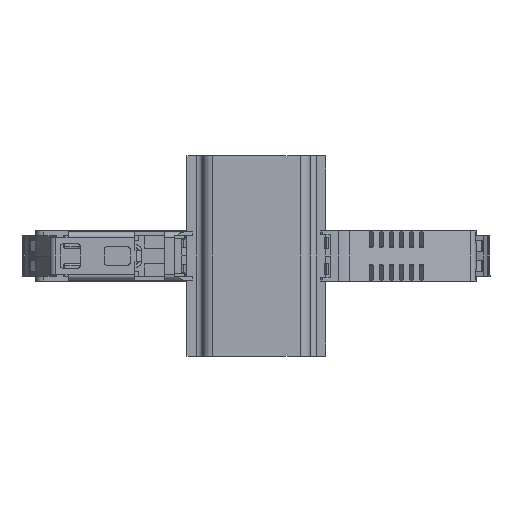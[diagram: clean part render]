
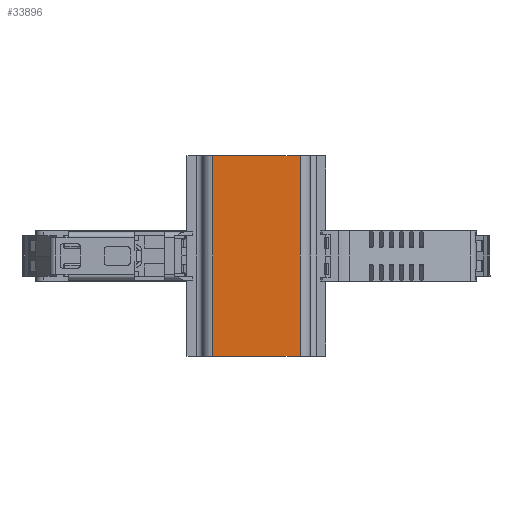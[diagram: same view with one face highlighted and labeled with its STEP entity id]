
A CAD part, front view. The second image highlights one B-rep face of the part: STEP entity #33896.
In plain terms, the highlighted planar face has unit normal (0, -1, 0).
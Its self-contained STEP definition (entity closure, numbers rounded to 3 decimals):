
#3367 = CARTESIAN_POINT ( 'NONE',  ( 44.2, -7.2, 25. ) ) ;
#4187 = CARTESIAN_POINT ( 'NONE',  ( 66., -7.2, 25. ) ) ;
#4462 = AXIS2_PLACEMENT_3D ( 'NONE', #34156, #43838, #6536 ) ;
#5713 = CARTESIAN_POINT ( 'NONE',  ( 66., -7.2, -25. ) ) ;
#6536 = DIRECTION ( 'NONE',  ( 0., 0., 1. ) ) ;
#8607 = ORIENTED_EDGE ( 'NONE', *, *, #19543, .T. ) ;
#8634 = EDGE_CURVE ( 'NONE', #10587, #51267, #51604, .T. ) ;
#10587 = VERTEX_POINT ( 'NONE', #3367 ) ;
#11592 = EDGE_CURVE ( 'NONE', #51267, #39349, #44811, .T. ) ;
#13312 = VECTOR ( 'NONE', #54610, 1000. ) ;
#15925 = VECTOR ( 'NONE', #22707, 1000. ) ;
#15993 = CARTESIAN_POINT ( 'NONE',  ( 66., -7.2, 25. ) ) ;
#18499 = LINE ( 'NONE', #50710, #32202 ) ;
#19543 = EDGE_CURVE ( 'NONE', #30167, #39349, #18499, .T. ) ;
#20428 = ORIENTED_EDGE ( 'NONE', *, *, #41865, .F. ) ;
#21200 = EDGE_LOOP ( 'NONE', ( #58361, #55041, #20428, #8607 ) ) ;
#22707 = DIRECTION ( 'NONE',  ( 0., 0., -1. ) ) ;
#24240 = LINE ( 'NONE', #31650, #38761 ) ;
#25037 = FACE_OUTER_BOUND ( 'NONE', #21200, .T. ) ;
#27129 = CARTESIAN_POINT ( 'NONE',  ( 40.2, -7.2, 25. ) ) ;
#27228 = DIRECTION ( 'NONE',  ( 0., 0., 1. ) ) ;
#30167 = VERTEX_POINT ( 'NONE', #43569 ) ;
#31650 = CARTESIAN_POINT ( 'NONE',  ( 44.2, -7.2, 25. ) ) ;
#32202 = VECTOR ( 'NONE', #41606, 1000. ) ;
#33896 = ADVANCED_FACE ( 'NONE', ( #25037 ), #48696, .F. ) ;
#34156 = CARTESIAN_POINT ( 'NONE',  ( 44.2, -7.2, 25. ) ) ;
#38761 = VECTOR ( 'NONE', #27228, 1000. ) ;
#39349 = VERTEX_POINT ( 'NONE', #5713 ) ;
#41606 = DIRECTION ( 'NONE',  ( 1., 0., 0. ) ) ;
#41865 = EDGE_CURVE ( 'NONE', #30167, #10587, #24240, .T. ) ;
#43569 = CARTESIAN_POINT ( 'NONE',  ( 44.2, -7.2, -25. ) ) ;
#43838 = DIRECTION ( 'NONE',  ( 0., 1., 0. ) ) ;
#44811 = LINE ( 'NONE', #4187, #15925 ) ;
#48696 = PLANE ( 'NONE',  #4462 ) ;
#50710 = CARTESIAN_POINT ( 'NONE',  ( 40.2, -7.2, -25. ) ) ;
#51267 = VERTEX_POINT ( 'NONE', #15993 ) ;
#51604 = LINE ( 'NONE', #27129, #13312 ) ;
#54610 = DIRECTION ( 'NONE',  ( 1., 0., 0. ) ) ;
#55041 = ORIENTED_EDGE ( 'NONE', *, *, #8634, .F. ) ;
#58361 = ORIENTED_EDGE ( 'NONE', *, *, #11592, .F. ) ;
